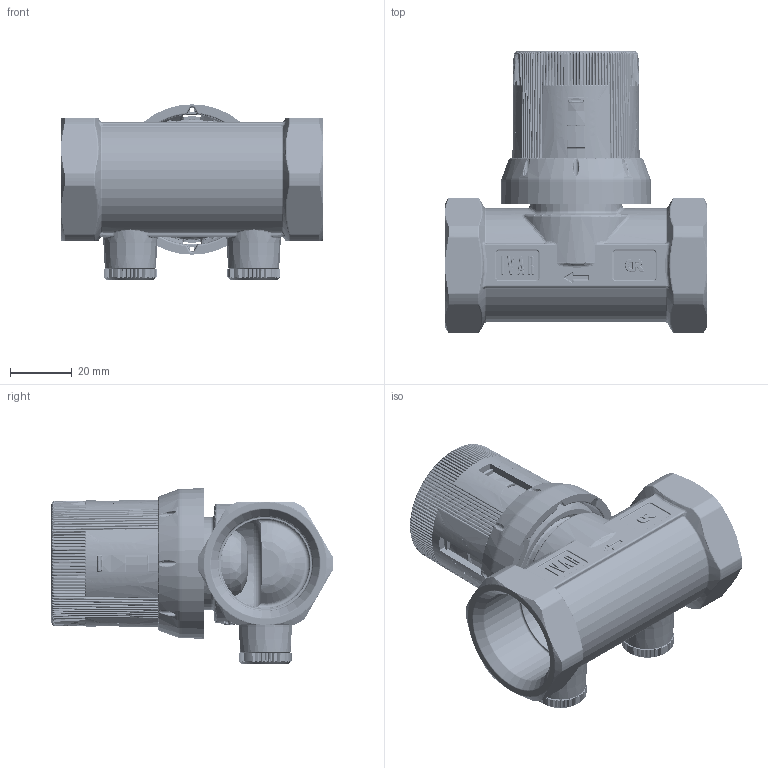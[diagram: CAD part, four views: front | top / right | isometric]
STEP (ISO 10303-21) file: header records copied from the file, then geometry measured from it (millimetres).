
FILE_DESCRIPTION(/* description */ (''),/* implementation_level */ '2;1');
FILE_NAME(/* name */ 'F:\Артём\00000\Работа удаленка\130\VT.042.G.30006.stp',/* time_stamp */ '2021-04-05T15:46:01+03:00',/* author */ ('almis'),/* organization */ (''),/* preprocessor_version */ 'ST-DEVELOPER v18',/* originating_system */ 'Autodesk Inventor 2020',/* authorisation */ '');
FILE_SCHEMA (('AUTOMOTIVE_DESIGN { 1 0 10303 214 3 1 1 }'));
Length unit declared in the file: millimetre
Products named in the file (1): 550112 partner DN25
Bounding box: 85 x 91.59 x 56.89 mm (x, y, z)
Volume: 103310.9 mm3; surface area: 63121.4 mm2
Topology: 1 solids, 14 shells, 7865 faces, 20707 edges, 12735 vertices
Faces by surface type: bspline 2437, plane 1928, cylinder 1850, torus 713, cone 647, sphere 290
Full cylindrical faces by diameter (mm): 5 x2, 6 x1, 6.2 x2, 6.5 x1, 7 x7, 8 x1, 9.4 x3, 9.5 x3, 10 x1, 10.5 x1, 11.5 x4, 12 x2, 12.1 x1, 14 x1, 15 x3, 15.2 x2, 17 x1, 17.2 x1, 19 x2, 20.5 x1, 21 x1, 22.5 x1, 23 x2, 23.5 x1, 24.5 x1, 26 x1, 26.1 x1, 27.1 x1, 27.8 x1, 29 x2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
Entity records: 315847 total; most frequent: CARTESIAN_POINT 128122, ORIENTED_EDGE 40584, DIRECTION 35685, EDGE_CURVE 20292, AXIS2_PLACEMENT_3D 14569, VERTEX_POINT 12655, EDGE_LOOP 8035, FACE_OUTER_BOUND 7785
